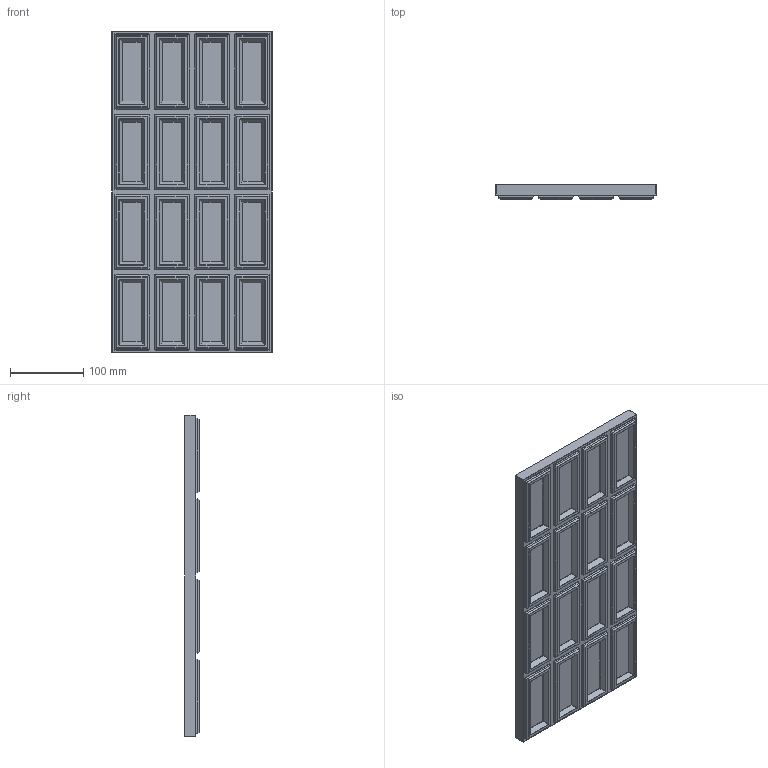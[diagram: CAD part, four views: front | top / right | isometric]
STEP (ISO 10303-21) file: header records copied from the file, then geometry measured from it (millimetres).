
FILE_DESCRIPTION(/* description */ (''),/* implementation_level */ '2;1');
FILE_NAME(/* name */ 'CI4401~1',/* time_stamp */ '2025-06-17T09:23:53+02:00',/* author */ (''),/* organization */ (''),/* preprocessor_version */ 'ST-DEVELOPER v15',/* originating_system */ '',/* authorisation */ '');
FILE_SCHEMA (('AUTOMOTIVE_DESIGN'));
Length unit declared in the file: millimetre
Products named in the file (1): Document
Bounding box: 220 x 20 x 440 mm (x, y, z)
Volume: 1474255 mm3; surface area: 244827 mm2
Topology: 1 solids, 1 shells, 1180 faces, 2808 edges, 1540 vertices
Faces by surface type: bspline 940, plane 240
Entity records: 49399 total; most frequent: CARTESIAN_POINT 34170, ORIENTED_EDGE 5352, EDGE_CURVE 2676, VERTEX_POINT 1540, B_SPLINE_CURVE_WITH_KNOTS 1292, EDGE_LOOP 1222, ADVANCED_FACE 1180, FACE_OUTER_BOUND 1180
